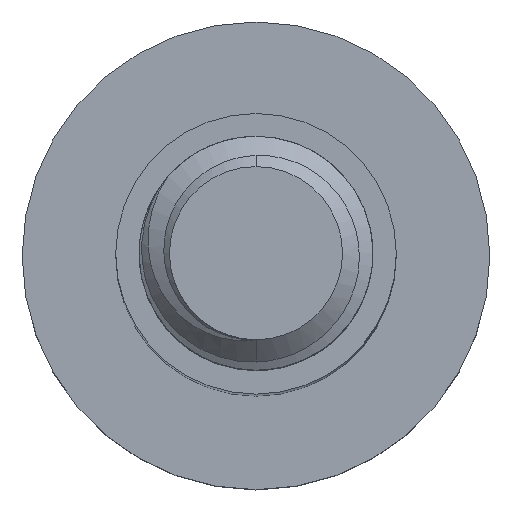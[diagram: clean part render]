
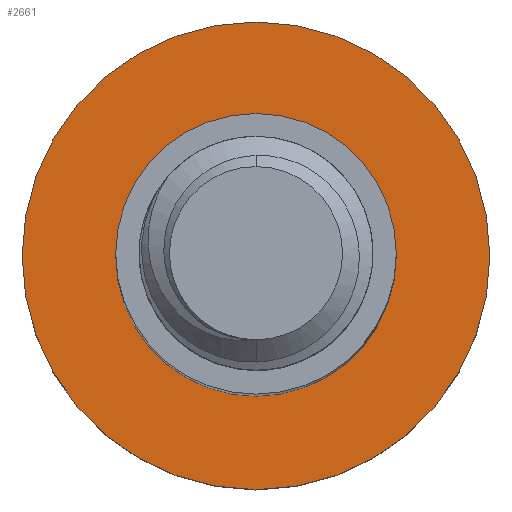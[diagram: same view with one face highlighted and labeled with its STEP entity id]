
A CAD part, top view. The second image highlights one B-rep face of the part: STEP entity #2661.
In plain terms, the highlighted planar face has unit normal (0, 0, 1).
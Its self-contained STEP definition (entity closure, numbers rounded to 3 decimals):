
#128 = DIRECTION ( 'NONE',  ( 0., 0., -1. ) ) ;
#275 = CIRCLE ( 'NONE', #2695, 10. ) ;
#350 = DIRECTION ( 'NONE',  ( -1., 0., 0. ) ) ;
#406 = EDGE_LOOP ( 'NONE', ( #2567, #854 ) ) ;
#606 = CARTESIAN_POINT ( 'NONE',  ( -10., 0., -50. ) ) ;
#669 = EDGE_CURVE ( 'NONE', #1840, #706, #2486, .T. ) ;
#705 = EDGE_LOOP ( 'NONE', ( #3442, #1859 ) ) ;
#706 = VERTEX_POINT ( 'NONE', #606 ) ;
#731 = CIRCLE ( 'NONE', #2068, 6. ) ;
#789 = CIRCLE ( 'NONE', #2004, 6. ) ;
#854 = ORIENTED_EDGE ( 'NONE', *, *, #2166, .T. ) ;
#968 = CARTESIAN_POINT ( 'NONE',  ( 10., 0., -50. ) ) ;
#1057 = VERTEX_POINT ( 'NONE', #1546 ) ;
#1210 = DIRECTION ( 'NONE',  ( 0., 0., -1. ) ) ;
#1294 = PLANE ( 'NONE',  #1599 ) ;
#1420 = EDGE_CURVE ( 'NONE', #706, #1840, #275, .T. ) ;
#1427 = CARTESIAN_POINT ( 'NONE',  ( 0., 0., -50. ) ) ;
#1465 = CARTESIAN_POINT ( 'NONE',  ( 0., 0., -50. ) ) ;
#1490 = VERTEX_POINT ( 'NONE', #3139 ) ;
#1546 = CARTESIAN_POINT ( 'NONE',  ( 6., 0., -50. ) ) ;
#1569 = CARTESIAN_POINT ( 'NONE',  ( 0., 0., -50. ) ) ;
#1595 = AXIS2_PLACEMENT_3D ( 'NONE', #1465, #3093, #2317 ) ;
#1599 = AXIS2_PLACEMENT_3D ( 'NONE', #2421, #3491, #2142 ) ;
#1840 = VERTEX_POINT ( 'NONE', #968 ) ;
#1859 = ORIENTED_EDGE ( 'NONE', *, *, #1420, .F. ) ;
#2004 = AXIS2_PLACEMENT_3D ( 'NONE', #1427, #3385, #350 ) ;
#2068 = AXIS2_PLACEMENT_3D ( 'NONE', #1569, #1210, #3194 ) ;
#2142 = DIRECTION ( 'NONE',  ( -1., 0., 0. ) ) ;
#2166 = EDGE_CURVE ( 'NONE', #1057, #1490, #789, .T. ) ;
#2317 = DIRECTION ( 'NONE',  ( -1., 0., 0. ) ) ;
#2332 = DIRECTION ( 'NONE',  ( -1., 0., 0. ) ) ;
#2421 = CARTESIAN_POINT ( 'NONE',  ( 0., 0., -50. ) ) ;
#2486 = CIRCLE ( 'NONE', #1595, 10. ) ;
#2567 = ORIENTED_EDGE ( 'NONE', *, *, #3119, .T. ) ;
#2661 = ADVANCED_FACE ( 'NONE', ( #3047, #2673 ), #1294, .F. ) ;
#2673 = FACE_OUTER_BOUND ( 'NONE', #705, .T. ) ;
#2695 = AXIS2_PLACEMENT_3D ( 'NONE', #3437, #128, #2332 ) ;
#3047 = FACE_BOUND ( 'NONE', #406, .T. ) ;
#3093 = DIRECTION ( 'NONE',  ( 0., 0., -1. ) ) ;
#3119 = EDGE_CURVE ( 'NONE', #1490, #1057, #731, .T. ) ;
#3139 = CARTESIAN_POINT ( 'NONE',  ( -6., 0., -50. ) ) ;
#3194 = DIRECTION ( 'NONE',  ( -1., 0., 0. ) ) ;
#3385 = DIRECTION ( 'NONE',  ( 0., 0., -1. ) ) ;
#3437 = CARTESIAN_POINT ( 'NONE',  ( 0., 0., -50. ) ) ;
#3442 = ORIENTED_EDGE ( 'NONE', *, *, #669, .F. ) ;
#3491 = DIRECTION ( 'NONE',  ( 0., 0., -1. ) ) ;
